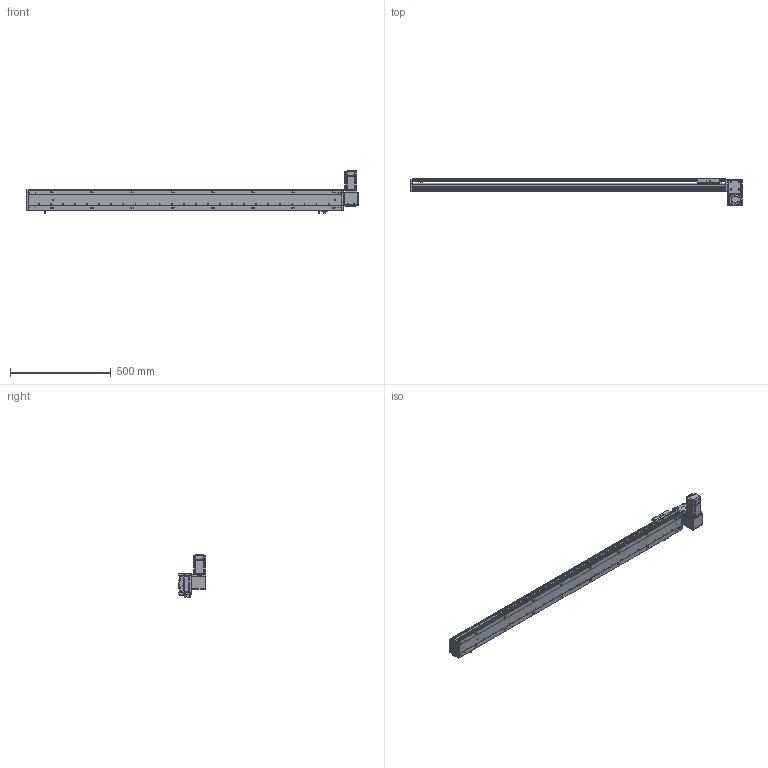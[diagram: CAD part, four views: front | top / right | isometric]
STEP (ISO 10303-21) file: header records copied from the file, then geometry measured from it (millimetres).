
FILE_DESCRIPTION (( 'STEP AP203' ), '1' );
FILE_NAME ('RY100-T-300-DR.SLDASM_1350.step', '2024-04-25T03:23:27', ( '盈信电脑' ), ( '东莞市道滘镇水果街19号' ), 'SwSTEP 2.0', 'SolidWorks 2016', '' );
FILE_SCHEMA (( 'CONFIG_CONTROL_DESIGN' ));
Length unit declared in the file: millimetre
Products named in the file (16): 滅袉蝶18-10; 侂狟200W萇儂; RY100-T-300-DR.SLDASM_1350; RY100-T肮祭謫臏賑輸; 1; RY100-T粣創揤踡裔; RY100-T-300-RK倰第奻裔_1350; RY100-T肮祭謫翋盓傅釱; RY100-T翋肮祭謫裔啣2; RY100-T-300-RK倰第菁釱_1350; RY80-T肮祭謫狟殏俋欶; RY100俋离覜茼え; RY100綴裔啣; RY100-T翋肮祭謫裔啣; 覜茼ん672; RY100-T左右折电机安装板
Assembly tree (19 placements, depth 3):
  RY100-T-300-DR.SLDASM_1350
    RY100-T-300-RK倰第菁釱_1350
    RY100-T-300-RK倰第奻裔_1350
    RY100-T肮祭謫臏賑輸
    RY100綴裔啣
    覜茼ん672  x3
    RY100俋离覜茼え
    RY100-T肮祭謫翋盓傅釱
    RY100-T左右折电机安装板
    侂狟200W萇儂
      1
    RY100-T粣創揤踡裔
    滅袉蝶18-10  x2
    RY100-T翋肮祭謫裔啣2  x2
    RY100-T翋肮祭謫裔啣
    RY80-T肮祭謫狟殏俋欶
Bounding box: 1650 x 135.5 x 209.7 mm (x, y, z)
Volume: 3201714.3 mm3; surface area: 1341746.2 mm2
Topology: 18 solids, 18 shells, 2253 faces, 6270 edges, 4074 vertices
Faces by surface type: plane 1217, cylinder 825, cone 133, bspline 78
Entity records: 72309 total; most frequent: CARTESIAN_POINT 17402, ORIENTED_EDGE 11276, DIRECTION 10754, EDGE_CURVE 5638, VERTEX_POINT 3710, VECTOR 3628, LINE 3628, AXIS2_PLACEMENT_3D 3563
